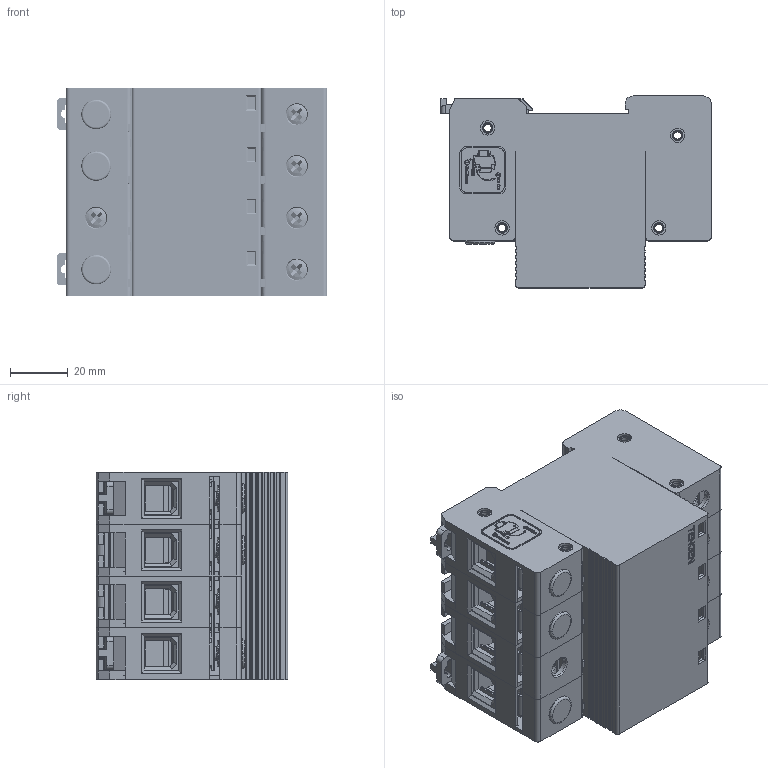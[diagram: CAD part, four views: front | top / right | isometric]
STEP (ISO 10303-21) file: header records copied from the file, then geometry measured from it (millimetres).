
FILE_DESCRIPTION((''),'2;1');
FILE_NAME('TENGEN_TGDY55II_20_40_385V_4P','2024-01-10T14:55:35',('zhanghualong1'),(''),'CREO PARAMETRIC BY PTC INC, 2020354','CREO PARAMETRIC BY PTC INC, 2020354','');
FILE_SCHEMA(('CONFIG_CONTROL_DESIGN'));
Products named in the file (1): TENGEN_TGDY55II_20_40_385V_4P
Bounding box: 94.1 x 66.7 x 72 mm (x, y, z)
Volume: 124681.4 mm3; surface area: 204635.1 mm2
Topology: 23 solids, 36 shells, 7321 faces, 19802 edges, 12795 vertices
Faces by surface type: plane 5290, cylinder 1403, extrusion 236, cone 178, torus 124, bspline 56, sphere 34
Entity records: 235303 total; most frequent: CARTESIAN_POINT 50544, ORIENTED_EDGE 39568, DIRECTION 36054, EDGE_CURVE 19784, VECTOR 16034, LINE 15798, VERTEX_POINT 12795, AXIS2_PLACEMENT_3D 10010
